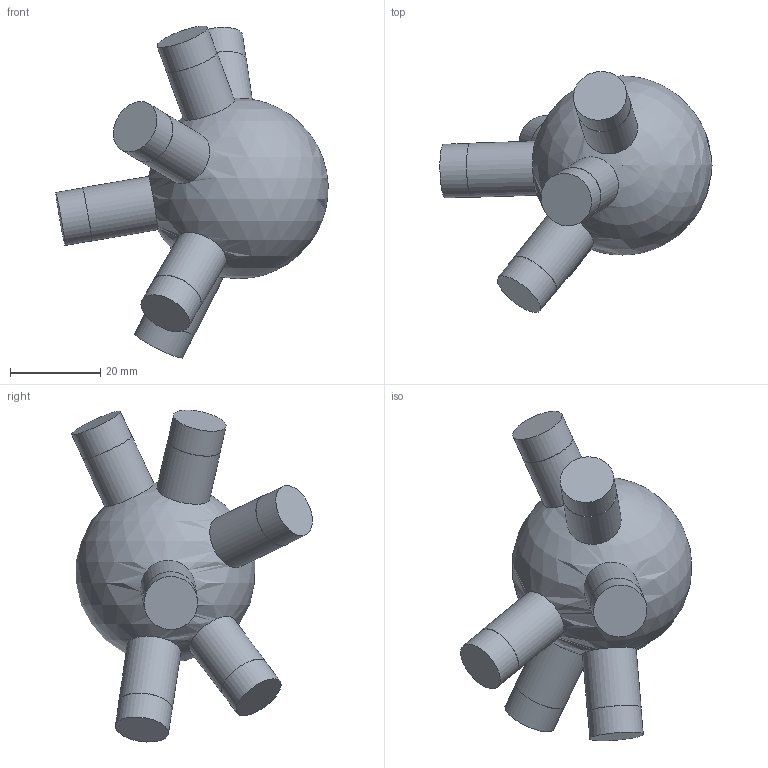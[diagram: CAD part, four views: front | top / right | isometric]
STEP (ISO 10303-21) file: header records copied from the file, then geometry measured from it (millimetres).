
FILE_DESCRIPTION(('Open CASCADE Model'),'2;1');
FILE_NAME('Open CASCADE Shape Model','2026-10-21T12:47:57',('Author'),( 'Open CASCADE'),'Open CASCADE STEP processor 7.9','Open CASCADE 7.9' ,'Unknown');
FILE_SCHEMA(('AUTOMOTIVE_DESIGN { 1 0 10303 214 1 1 1 1 }'));
Length unit declared in the file: millimetre
Products named in the file (1): Open CASCADE STEP translator 7.9 80
Bounding box: 60.34 x 53.39 x 73.59 mm (x, y, z)
Volume: 46187.6 mm3; surface area: 9352.5 mm2
Topology: 1 solids, 1 shells, 25 faces, 39 edges, 26 vertices
Faces by surface type: cylinder 12, plane 12, sphere 1
Full cylindrical faces by diameter (mm): 11.9 x6, 12 x6
Entity records: 1520 total; most frequent: CARTESIAN_POINT 655, DIRECTION 178, ORIENTED_EDGE 72, PCURVE 72, DEFINITIONAL_REPRESENTATION 72, LINE 60, VECTOR 60, AXIS2_PLACEMENT_3D 50
